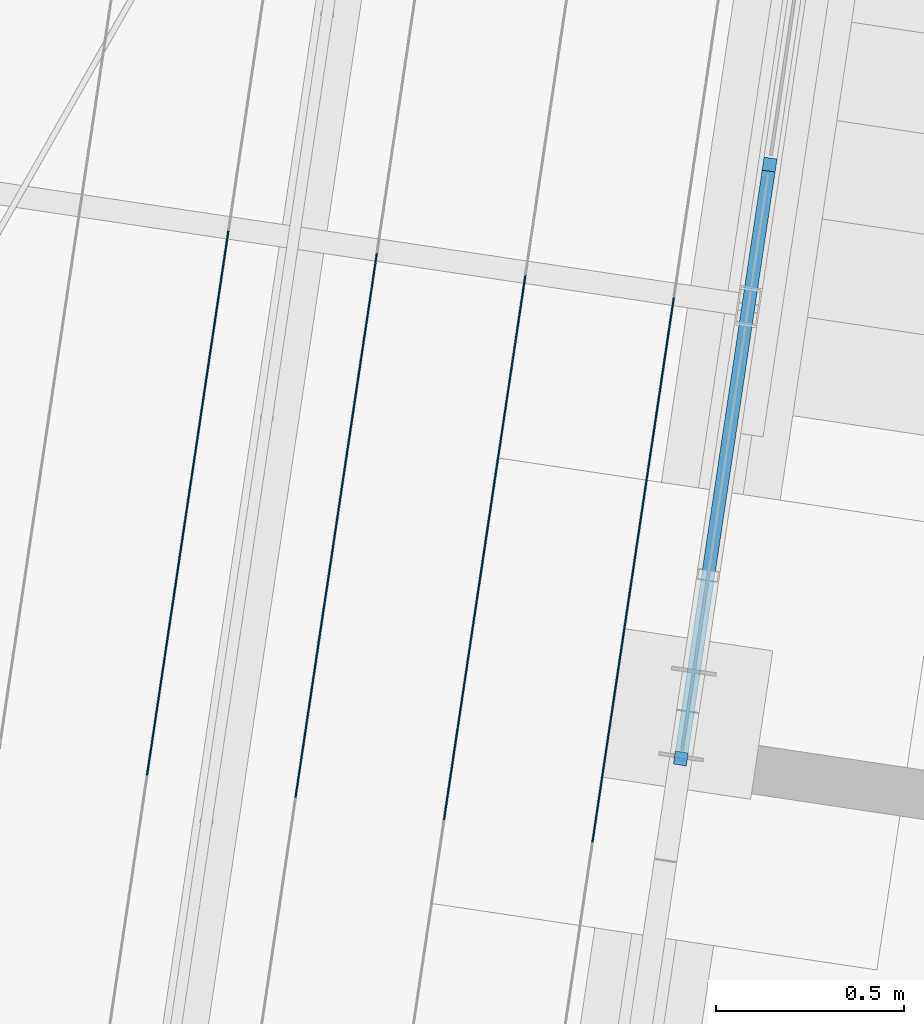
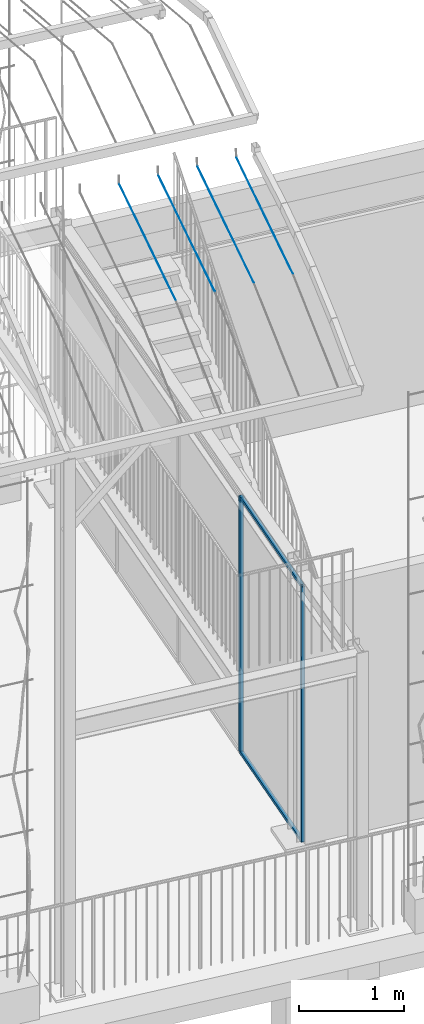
# One storey, part 26 of 143: 9 members, 1 element without a shape of its own.
"""IFC4 building model written with IfcOpenShell, lengths in metres."""

from ifc_helpers import new_model, si_unit, direction, frame, origin_with_axes, place, context, subcontext, project, spatial, rectangle, circle, extrude, material, material_profile, profile_set, profile_usage, type_object, element, aggregate, save


model = new_model("IFC4")

# Units and contexts
model_context = context("Model", 3, precision=1e-05, world=origin_with_axes(), true_north=direction((0.0, 1.0)))
body_context = subcontext(model_context, "Body", "Model", "MODEL_VIEW")
ifc_project = project(units=[si_unit("VOLUMEUNIT", "CUBIC_METRE"), si_unit("LENGTHUNIT", "METRE"), si_unit("AREAUNIT", "SQUARE_METRE")], contexts=[model_context])

# Site, building, storey
site_placement = place(None, origin_with_axes())
site = spatial("IfcSite", under=ifc_project, at=site_placement, Name="Lares · Rua das Mercês · artigo 4771")
building_placement = place(site_placement, frame((15.0, 9.7, 15.8), z_axis=(0.0, 0.0, 1.0), x_axis=(0.989015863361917, -0.147809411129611, 0.0)))
building = spatial("IfcBuilding", under=site, at=building_placement, Name="Casa Sobreposta")
storey_placement = place(building_placement, origin_with_axes())
storey = spatial("IfcBuildingStorey", under=building, at=storey_placement, Name="00 · Habitação e estacionamento", Elevation=15.8)

# Members
ifc_material_1 = material(Name="Aço pintado / Stahl lackiert", Category="steel")
ifc_material_profile_1 = material_profile(ifc_material_1, rectangle(XDim=0.035, YDim=0.035))
ifc_profile_set_1 = profile_set([ifc_material_profile_1], Name="R0.035")
ifc_profile_usage_1 = profile_usage(ifc_profile_set_1)
member_type_1 = type_object("IfcMemberType", Name="R0.035 / steel", PredefinedType="NOTDEFINED", material=ifc_profile_set_1)
member_1_placement = place(storey_placement, origin_with_axes())
element("IfcMember", 1, at=member_1_placement, inside=storey, type_object=member_type_1, material=ifc_profile_usage_1, Name="Fachada poente integralmente envidraçada · módulo 1 · montante", context=body_context, shape_type="SweptSolid", body=[
    extrude(rectangle(XDim=0.035, YDim=0.035), origin_with_axes(), (0.0, 0.0, 1.0), 2.968),
])
ifc_profile_usage_2 = profile_usage(ifc_profile_set_1)
member_2_placement = place(storey_placement, frame((0.0, 1.6, 0.0), z_axis=(0.0, 0.0, 1.0), x_axis=(1.0, 0.0, 0.0)))
element("IfcMember", 2, at=member_2_placement, inside=storey, type_object=member_type_1, material=ifc_profile_usage_2, context=body_context, shape_type="SweptSolid", body=[
    extrude(rectangle(XDim=0.035, YDim=0.035), origin_with_axes(), (0.0, 0.0, 1.0), 2.968),
])
ifc_profile_usage_3 = profile_usage(ifc_profile_set_1)
member_3_placement = place(storey_placement, frame((0.0, 0.0, 0.0), z_axis=(0.0, 1.0, 0.0), x_axis=(1.0, 0.0, 0.0)))
element("IfcMember", 3, at=member_3_placement, inside=storey, type_object=member_type_1, material=ifc_profile_usage_3, Name="Fachada poente integralmente envidraçada · módulo 1 · travessa", context=body_context, shape_type="SweptSolid", body=[
    extrude(rectangle(XDim=0.035, YDim=0.035), origin_with_axes(), (0.0, 0.0, 1.0), 1.6),
])
ifc_profile_usage_4 = profile_usage(ifc_profile_set_1)
member_4_placement = place(storey_placement, frame((0.0, 0.0, 2.968), z_axis=(0.0, 1.0, 0.0), x_axis=(1.0, 0.0, 0.0)))
element("IfcMember", 4, at=member_4_placement, inside=storey, type_object=member_type_1, material=ifc_profile_usage_4, Name="Fachada poente integralmente envidraçada · módulo 1 · travessa", context=body_context, shape_type="SweptSolid", body=[
    extrude(rectangle(XDim=0.035, YDim=0.035), origin_with_axes(), (0.0, 0.0, 1.0), 1.6),
])
ifc_profile_usage_5 = profile_usage(ifc_profile_set_1)
member_5_placement = place(storey_placement, frame((0.0, 1.6, 0.0), z_axis=(0.0, 0.0, 1.0), x_axis=(1.0, 0.0, 0.0)))
element("IfcMember", 5, at=member_5_placement, inside=storey, type_object=member_type_1, material=ifc_profile_usage_5, context=body_context, shape_type="SweptSolid", body=[
    extrude(rectangle(XDim=0.035, YDim=0.035), origin_with_axes(), (0.0, 0.0, 1.0), 2.968),
])

# Assembly, members
assembly_placement = place(storey_placement, origin_with_axes())
assembly = element("IfcElementAssembly", 6, at=assembly_placement, inside=storey, Name="Pérgola · prolongamento da estufa 6 m", ObjectType="PERGOLA_GREENHOUSE_EXTENSION", PredefinedType="USERDEFINED")
ifc_material_2 = material(Name="Aço galvanizado / Stahl verzinkt", Category="steel")
ifc_material_profile_2 = material_profile(ifc_material_2, circle(Radius=0.002))
ifc_profile_set_2 = profile_set([ifc_material_profile_2], Name="D0.004")
ifc_profile_usage_6 = profile_usage(ifc_profile_set_2)
member_type_2 = type_object("IfcMemberType", Name="D0.004 / galvanized", PredefinedType="NOTDEFINED", material=ifc_profile_set_2)
member_6_placement = place(assembly_placement, frame((-1.4, -0.256488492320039, 6.81570306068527), z_axis=(0.0, 0.96535496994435, 0.260940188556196), x_axis=(1.0, 0.0, 0.0)))
member_6 = element("IfcMember", 7, at=member_6_placement, type_object=member_type_2, material=ifc_profile_usage_6, Name="Pérgola · fio para trepadeiras", context=body_context, shape_type="SweptSolid", body=[
    extrude(circle(Radius=0.002), origin_with_axes(), (0.0, 0.0, 1.0), 1.52368621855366),
])
ifc_profile_usage_7 = profile_usage(ifc_profile_set_2)
member_7_placement = place(assembly_placement, frame((-0.999999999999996, -0.256488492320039, 6.81570306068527), z_axis=(0.0, 0.96535496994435, 0.260940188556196), x_axis=(1.0, 0.0, 0.0)))
member_7 = element("IfcMember", 8, at=member_7_placement, type_object=member_type_2, material=ifc_profile_usage_7, Name="Pérgola · fio para trepadeiras", context=body_context, shape_type="SweptSolid", body=[
    extrude(circle(Radius=0.002), origin_with_axes(), (0.0, 0.0, 1.0), 1.52368621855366),
])
ifc_profile_usage_8 = profile_usage(ifc_profile_set_2)
member_8_placement = place(assembly_placement, frame((-0.599999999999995, -0.256488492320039, 6.81570306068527), z_axis=(0.0, 0.96535496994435, 0.260940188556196), x_axis=(1.0, 0.0, 0.0)))
member_8 = element("IfcMember", 9, at=member_8_placement, type_object=member_type_2, material=ifc_profile_usage_8, Name="Pérgola · fio para trepadeiras", context=body_context, shape_type="SweptSolid", body=[
    extrude(circle(Radius=0.002), origin_with_axes(), (0.0, 0.0, 1.0), 1.52368621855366),
])
ifc_profile_usage_9 = profile_usage(ifc_profile_set_2)
member_9_placement = place(assembly_placement, frame((-0.199999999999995, -0.256488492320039, 6.81570306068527), z_axis=(0.0, 0.96535496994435, 0.260940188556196), x_axis=(1.0, 0.0, 0.0)))
member_9 = element("IfcMember", 10, at=member_9_placement, type_object=member_type_2, material=ifc_profile_usage_9, Name="Pérgola · fio para trepadeiras", context=body_context, shape_type="SweptSolid", body=[
    extrude(circle(Radius=0.002), origin_with_axes(), (0.0, 0.0, 1.0), 1.52368621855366),
])
aggregate(assembly, [member_6, member_7, member_8, member_9])

save(model, "model.ifc")
